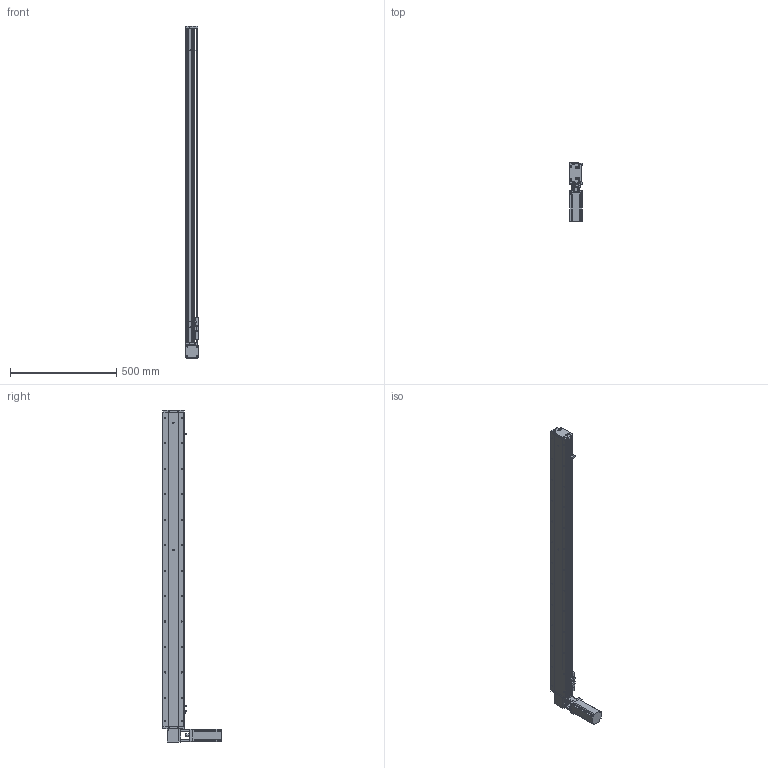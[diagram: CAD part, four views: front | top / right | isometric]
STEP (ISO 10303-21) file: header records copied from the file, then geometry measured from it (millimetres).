
FILE_DESCRIPTION (( 'STEP AP214' ), '1' );
FILE_NAME ('KSD100B-S1300-MLT-CM.STEP', '2019-10-26T05:58:48', ( '微软用户' ), ( '微软中国' ), 'SwSTEP 2.0', 'SolidWorks 2014', '' );
FILE_SCHEMA (( 'AUTOMOTIVE_DESIGN' ));
Length unit declared in the file: millimetre
Products named in the file (12): 100宽同步带安装板半封闭; 100宽马达安装板同步带; 100遵傷啣肮祭湍; 100宽底板半封闭同步带1300行程; KSD100B-S1300-MLT-CM; 100宽安装板同步带带电机座400W,86; 100遵鎮湛假蚾啣1 ; 100宽防尘板1300行程-同步带; U倰嫖萇EEㄜSX672; 覜茼え100遵圉猾敕; 台达ECMA－C20604AS伺服电机; 100宽马达安装板同步带右
Assembly tree (13 placements, depth 2):
  KSD100B-S1300-MLT-CM
    100宽底板半封闭同步带1300行程
    100遵傷啣肮祭湍
    100宽马达安装板同步带
    100宽同步带安装板半封闭
    100宽马达安装板同步带右
    台达ECMA－C20604AS伺服电机
    覜茼え100遵圉猾敕
    U倰嫖萇EEㄜSX672  x3
    100宽防尘板1300行程-同步带
    100遵鎮湛假蚾啣1 
    100宽安装板同步带带电机座400W,86
Bounding box: 61 x 275 x 1565 mm (x, y, z)
Volume: 3369770 mm3; surface area: 1117764.7 mm2
Topology: 14 solids, 14 shells, 1550 faces, 4375 edges, 2767 vertices
Faces by surface type: cylinder 804, plane 587, cone 159
Entity records: 55315 total; most frequent: CARTESIAN_POINT 11586, DIRECTION 7627, ORIENTED_EDGE 7338, EDGE_CURVE 3669, AXIS2_PLACEMENT_3D 2818, VERTEX_POINT 2391, VECTOR 1991, LINE 1991
